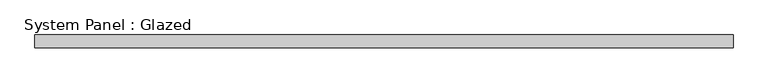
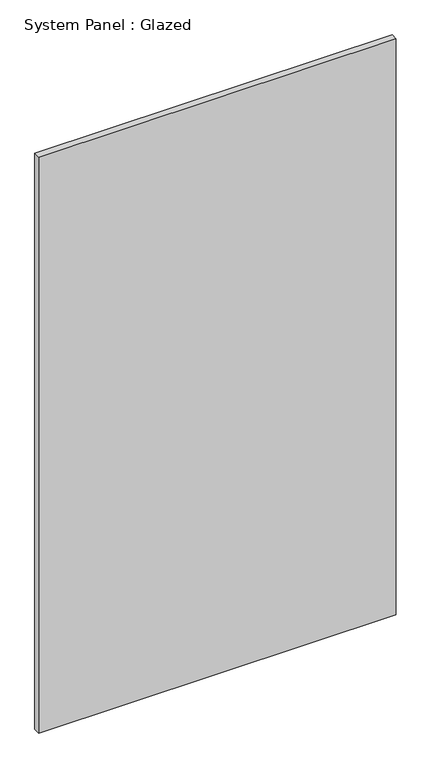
"""IFC4 building model written with IfcOpenShell, lengths in millimetres: plate geometry, System Panel : Glazed."""

from ifc_helpers import new_model, si_unit, origin, origin_with_axes, place, context, project, spatial, polyline, outline, extrude, source, transform, mapped, element, save


def system_panel_glazed_a66d18e1(model_context):
    return source(origin(), model_context, "Body", "SweptSolid", [
        extrude(outline(polyline([(682.9166666, 24.5), (-682.9166666, 24.5), (-682.9166666, 49.5), (682.9166666, 49.5), (682.9166666, 24.5)])), origin_with_axes(), (0.0, 0.0, 1.0), 2325.0),
    ])


if __name__ == "__main__":
    model = new_model("IFC4")
    model_context = context("Model", 3, world=origin())
    ifc_project = project(units=[si_unit("LENGTHUNIT", "METRE", prefix="MILLI")], contexts=[model_context])
    site = spatial("IfcSite", under=ifc_project)
    building = spatial("IfcBuilding", under=site)
    placement = place(None, origin())
    system_panel_glazed_shape = system_panel_glazed_a66d18e1(model_context)
    element("IfcPlate", 1, ObjectType="System Panel : Glazed", at=placement, inside=building, context=model_context, shape_type="MappedRepresentation", body=[
        mapped(system_panel_glazed_shape, transform((0.0, 0.0, 0.0), x_axis=(1.0, 0.0, 0.0), y_axis=(0.0, 1.0, 0.0), z_axis=(0.0, 0.0, 1.0))),
    ])
    save(model, "model.ifc")
